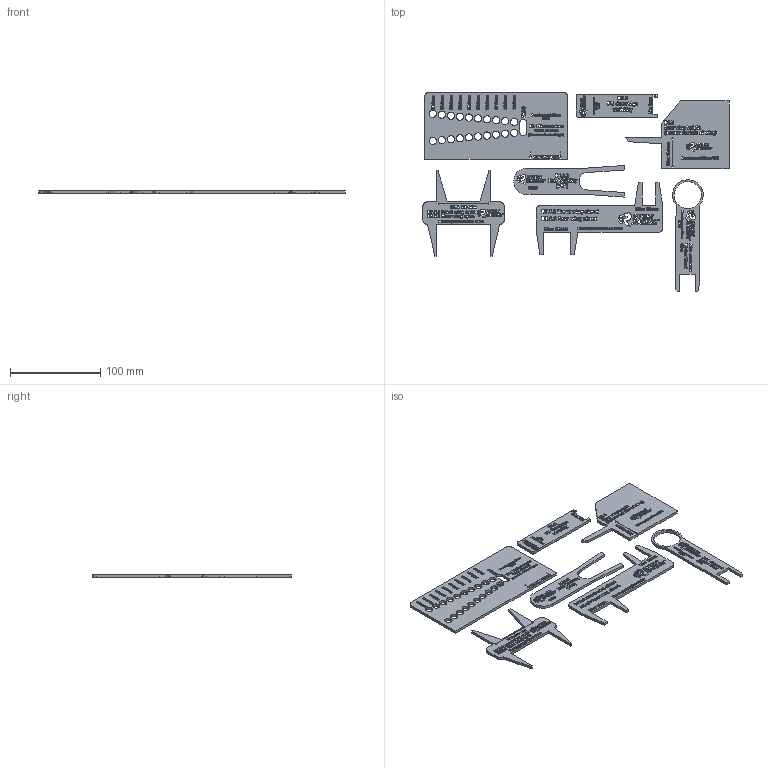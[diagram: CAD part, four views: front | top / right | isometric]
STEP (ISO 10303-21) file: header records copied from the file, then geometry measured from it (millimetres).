
FILE_DESCRIPTION(/* description */ (''),/* implementation_level */ '2;1');
FILE_NAME(/* name */ 'Dev Class Gauges Set 2.step',/* time_stamp */ '2026-09-16T11:13:13-05:00',/* author */ (''),/* organization */ (''),/* preprocessor_version */ 'ST-DEVELOPER v20.2',/* originating_system */ 'Autodesk Translation Framework v15.15.0.0',/* authorisation */ '');
FILE_SCHEMA (('AUTOMOTIVE_DESIGN { 1 0 10303 214 3 1 1 }'));
Products named in the file (29): 2026-06-25-17-02-18-288; 2026-06-25-17-02-18-289; 2026-06-25-17-02-18-290; 2026-06-25-17-02-18-291; 2026-06-25-17-02-18-292; 2026-06-25-12-03-43-006; 2026-06-25-17-02-18-293; 2026-06-25-17-02-18-294; 2026-06-25-17-02-18-295; 2026-06-25-17-02-18-296; 2026-06-25-17-02-18-297; 2026-06-25-17-02-18-298; 2026-06-25-17-02-18-299; 2026-06-25-17-02-18-300; 2026-06-25-17-02-18-301; 2026-06-25-17-02-18-302; 2026-06-25-17-02-18-303; 2026-06-25-17-02-18-304; 2026-06-25-17-02-18-305; 2026-06-25-17-02-18-306; 2026-06-25-17-02-18-309; 2026-06-25-17-02-18-310; 2026-06-25-17-02-18-311; 2026-09-02-17-38-43-697; 2026-09-02-18-02-18-013; 2026-09-03-10-12-09-976; 2026-09-03-10-20-48-781; 2026-09-03-10-23-00-301; 2026-09-03-10-24-20-348
Assembly tree (28 placements, depth 4):
  2026-06-25-17-02-18-288
    2026-06-25-17-02-18-289
      2026-06-25-17-02-18-290
      2026-06-25-17-02-18-291
        2026-06-25-17-02-18-292
      2026-06-25-12-03-43-006
    2026-06-25-17-02-18-293
      2026-06-25-17-02-18-294
        2026-06-25-17-02-18-295
    2026-06-25-17-02-18-296
      2026-06-25-17-02-18-297
      2026-06-25-17-02-18-298
        2026-06-25-17-02-18-299
    2026-06-25-17-02-18-300
      2026-06-25-17-02-18-301
        2026-06-25-17-02-18-302
    2026-06-25-17-02-18-303
      2026-06-25-17-02-18-304
        2026-06-25-17-02-18-305
    2026-06-25-17-02-18-306
    2026-06-25-17-02-18-309
      2026-06-25-17-02-18-310
        2026-06-25-17-02-18-311
    2026-09-02-17-38-43-697
    2026-09-02-18-02-18-013
    2026-09-03-10-12-09-976
    2026-09-03-10-20-48-781
    2026-09-03-10-23-00-301
    2026-09-03-10-24-20-348
Bounding box: 339.01 x 220.98 x 3 mm (x, y, z)
Volume: 85028.9 mm3; surface area: 88918.3 mm2
Topology: 7 solids, 7 shells, 8493 faces, 25437 edges, 16952 vertices
Faces by surface type: bspline 5013, plane 3479, cylinder 1
Entity records: 328949 total; most frequent: CARTESIAN_POINT 126758, ORIENTED_EDGE 50874, DIRECTION 26547, EDGE_CURVE 25437, VERTEX_POINT 16952, LINE 15409, VECTOR 15409, EDGE_LOOP 9719
